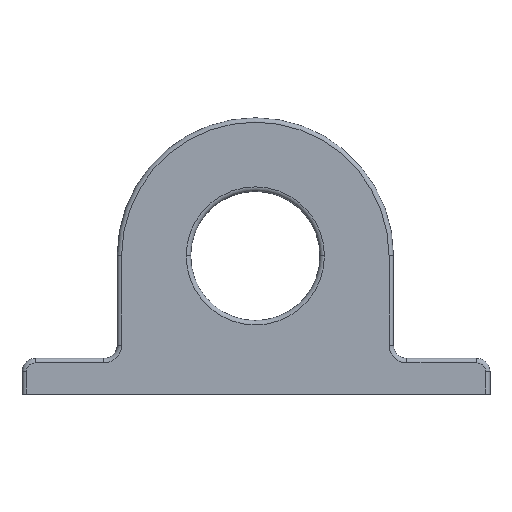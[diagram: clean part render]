
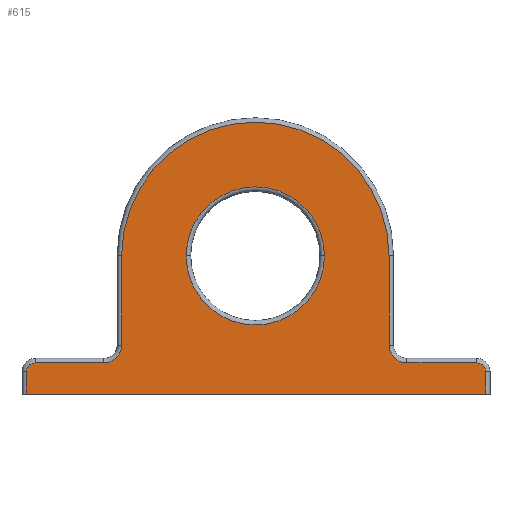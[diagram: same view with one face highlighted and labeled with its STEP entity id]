
A CAD part, top view. The second image highlights one B-rep face of the part: STEP entity #615.
In plain terms, the highlighted planar face has unit normal (0, 0, 1).
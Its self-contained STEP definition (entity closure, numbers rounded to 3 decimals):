
#28 = DIRECTION ( 'NONE',  ( -1., 0., 0. ) ) ;
#31 = EDGE_CURVE ( 'NONE', #1052, #1790, #1112, .T. ) ;
#144 = CARTESIAN_POINT ( 'NONE',  ( 49.5, 7., 11.5 ) ) ;
#153 = CARTESIAN_POINT ( 'NONE',  ( -51.5, 5., 11.5 ) ) ;
#154 = EDGE_CURVE ( 'NONE', #404, #539, #1774, .T. ) ;
#190 = CARTESIAN_POINT ( 'NONE',  ( -51.5, 0., 11.5 ) ) ;
#195 = VERTEX_POINT ( 'NONE', #144 ) ;
#202 = EDGE_CURVE ( 'NONE', #1790, #1179, #1278, .T. ) ;
#206 = CARTESIAN_POINT ( 'NONE',  ( 51.5, 5., 11.5 ) ) ;
#211 = CARTESIAN_POINT ( 'NONE',  ( -51.5, 8., 11.5 ) ) ;
#227 = EDGE_CURVE ( 'NONE', #1507, #1215, #886, .T. ) ;
#240 = FACE_BOUND ( 'NONE', #1580, .T. ) ;
#250 = EDGE_CURVE ( 'NONE', #195, #1786, #313, .T. ) ;
#263 = CIRCLE ( 'NONE', #961, 30. ) ;
#313 = LINE ( 'NONE', #1650, #1796 ) ;
#322 = VECTOR ( 'NONE', #490, 1000. ) ;
#339 = AXIS2_PLACEMENT_3D ( 'NONE', #1846, #345, #1550 ) ;
#345 = DIRECTION ( 'NONE',  ( 0., 0., -1. ) ) ;
#346 = CARTESIAN_POINT ( 'NONE',  ( 49.5, 5., 11.5 ) ) ;
#347 = LINE ( 'NONE', #717, #781 ) ;
#376 = LINE ( 'NONE', #1759, #1036 ) ;
#382 = PLANE ( 'NONE',  #614 ) ;
#397 = CIRCLE ( 'NONE', #1561, 15.5 ) ;
#404 = VERTEX_POINT ( 'NONE', #1830 ) ;
#413 = CARTESIAN_POINT ( 'NONE',  ( -49.5, 7., 11.5 ) ) ;
#433 = DIRECTION ( 'NONE',  ( 0., 0., 1. ) ) ;
#449 = EDGE_CURVE ( 'NONE', #1528, #1052, #263, .T. ) ;
#469 = DIRECTION ( 'NONE',  ( -1., 0., 0. ) ) ;
#480 = VECTOR ( 'NONE', #1837, 1000. ) ;
#490 = DIRECTION ( 'NONE',  ( -1., 0., 0. ) ) ;
#513 = ORIENTED_EDGE ( 'NONE', *, *, #227, .T. ) ;
#514 = DIRECTION ( 'NONE',  ( 0., 0., 1. ) ) ;
#521 = AXIS2_PLACEMENT_3D ( 'NONE', #346, #1529, #469 ) ;
#539 = VERTEX_POINT ( 'NONE', #1723 ) ;
#554 = VERTEX_POINT ( 'NONE', #1732 ) ;
#560 = ORIENTED_EDGE ( 'NONE', *, *, #1655, .T. ) ;
#586 = CIRCLE ( 'NONE', #521, 2. ) ;
#594 = ORIENTED_EDGE ( 'NONE', *, *, #1437, .T. ) ;
#614 = AXIS2_PLACEMENT_3D ( 'NONE', #817, #1290, #966 ) ;
#615 = ADVANCED_FACE ( 'NONE', ( #240, #1688 ), #382, .F. ) ;
#647 = DIRECTION ( 'NONE',  ( -1., 0., 0. ) ) ;
#695 = ORIENTED_EDGE ( 'NONE', *, *, #819, .T. ) ;
#717 = CARTESIAN_POINT ( 'NONE',  ( 29.843, 8., 11.5 ) ) ;
#750 = ORIENTED_EDGE ( 'NONE', *, *, #154, .T. ) ;
#751 = DIRECTION ( 'NONE',  ( -1., 0., 0. ) ) ;
#760 = LINE ( 'NONE', #803, #322 ) ;
#781 = VECTOR ( 'NONE', #1481, 1000. ) ;
#803 = CARTESIAN_POINT ( 'NONE',  ( -49.5, 7., 11.5 ) ) ;
#817 = CARTESIAN_POINT ( 'NONE',  ( -52.5, 8., 11.5 ) ) ;
#819 = EDGE_CURVE ( 'NONE', #1179, #1507, #760, .T. ) ;
#840 = ORIENTED_EDGE ( 'NONE', *, *, #250, .T. ) ;
#854 = CARTESIAN_POINT ( 'NONE',  ( -30.157, 31., 11.5 ) ) ;
#862 = VERTEX_POINT ( 'NONE', #1238 ) ;
#873 = EDGE_CURVE ( 'NONE', #1786, #862, #1063, .T. ) ;
#886 = CIRCLE ( 'NONE', #1283, 2. ) ;
#903 = ORIENTED_EDGE ( 'NONE', *, *, #873, .T. ) ;
#951 = CARTESIAN_POINT ( 'NONE',  ( 33.843, 11., 11.5 ) ) ;
#961 = AXIS2_PLACEMENT_3D ( 'NONE', #1405, #514, #647 ) ;
#966 = DIRECTION ( 'NONE',  ( -1., 0., 0. ) ) ;
#973 = ORIENTED_EDGE ( 'NONE', *, *, #31, .T. ) ;
#1005 = DIRECTION ( 'NONE',  ( 0., 1., 0. ) ) ;
#1035 = DIRECTION ( 'NONE',  ( 0., 0., -1. ) ) ;
#1036 = VECTOR ( 'NONE', #1005, 1000. ) ;
#1040 = CARTESIAN_POINT ( 'NONE',  ( -34.157, 11., 11.5 ) ) ;
#1052 = VERTEX_POINT ( 'NONE', #854 ) ;
#1053 = CARTESIAN_POINT ( 'NONE',  ( -52.5, 0., 11.5 ) ) ;
#1062 = CARTESIAN_POINT ( 'NONE',  ( -30.157, 11., 11.5 ) ) ;
#1063 = CIRCLE ( 'NONE', #1813, 4. ) ;
#1077 = ORIENTED_EDGE ( 'NONE', *, *, #1878, .T. ) ;
#1078 = VECTOR ( 'NONE', #1423, 1000. ) ;
#1080 = EDGE_CURVE ( 'NONE', #554, #1947, #376, .T. ) ;
#1112 = LINE ( 'NONE', #1273, #1078 ) ;
#1123 = ORIENTED_EDGE ( 'NONE', *, *, #449, .T. ) ;
#1126 = EDGE_CURVE ( 'NONE', #862, #1528, #347, .T. ) ;
#1137 = VECTOR ( 'NONE', #1682, 1000. ) ;
#1162 = LINE ( 'NONE', #211, #1137 ) ;
#1179 = VERTEX_POINT ( 'NONE', #1936 ) ;
#1189 = DIRECTION ( 'NONE',  ( -1., 0., 0. ) ) ;
#1215 = VERTEX_POINT ( 'NONE', #153 ) ;
#1228 = CARTESIAN_POINT ( 'NONE',  ( 33.843, 7., 11.5 ) ) ;
#1238 = CARTESIAN_POINT ( 'NONE',  ( 29.843, 11., 11.5 ) ) ;
#1273 = CARTESIAN_POINT ( 'NONE',  ( -30.157, 8., 11.5 ) ) ;
#1278 = CIRCLE ( 'NONE', #1856, 4. ) ;
#1283 = AXIS2_PLACEMENT_3D ( 'NONE', #1503, #433, #28 ) ;
#1290 = DIRECTION ( 'NONE',  ( 0., 0., -1. ) ) ;
#1323 = DIRECTION ( 'NONE',  ( -1., 0., 0. ) ) ;
#1401 = DIRECTION ( 'NONE',  ( 0., 0., -1. ) ) ;
#1405 = CARTESIAN_POINT ( 'NONE',  ( -0.157, 31., 11.5 ) ) ;
#1423 = DIRECTION ( 'NONE',  ( 0., -1., 0. ) ) ;
#1436 = VERTEX_POINT ( 'NONE', #190 ) ;
#1437 = EDGE_CURVE ( 'NONE', #1947, #195, #586, .T. ) ;
#1446 = LINE ( 'NONE', #1053, #480 ) ;
#1462 = EDGE_CURVE ( 'NONE', #1436, #554, #1446, .T. ) ;
#1481 = DIRECTION ( 'NONE',  ( 0., 1., 0. ) ) ;
#1497 = DIRECTION ( 'NONE',  ( 0., 0., -1. ) ) ;
#1503 = CARTESIAN_POINT ( 'NONE',  ( -49.5, 5., 11.5 ) ) ;
#1507 = VERTEX_POINT ( 'NONE', #413 ) ;
#1528 = VERTEX_POINT ( 'NONE', #1735 ) ;
#1529 = DIRECTION ( 'NONE',  ( 0., 0., 1. ) ) ;
#1550 = DIRECTION ( 'NONE',  ( -1., 0., 0. ) ) ;
#1560 = DIRECTION ( 'NONE',  ( -1., 0., 0. ) ) ;
#1561 = AXIS2_PLACEMENT_3D ( 'NONE', #1931, #1497, #1323 ) ;
#1580 = EDGE_LOOP ( 'NONE', ( #560, #750 ) ) ;
#1650 = CARTESIAN_POINT ( 'NONE',  ( 33.843, 7., 11.5 ) ) ;
#1655 = EDGE_CURVE ( 'NONE', #539, #404, #397, .T. ) ;
#1665 = ORIENTED_EDGE ( 'NONE', *, *, #1462, .T. ) ;
#1682 = DIRECTION ( 'NONE',  ( 0., -1., 0. ) ) ;
#1686 = ORIENTED_EDGE ( 'NONE', *, *, #202, .T. ) ;
#1688 = FACE_OUTER_BOUND ( 'NONE', #1760, .T. ) ;
#1723 = CARTESIAN_POINT ( 'NONE',  ( -15.657, 31., 11.5 ) ) ;
#1732 = CARTESIAN_POINT ( 'NONE',  ( 51.5, 0., 11.5 ) ) ;
#1735 = CARTESIAN_POINT ( 'NONE',  ( 29.843, 31., 11.5 ) ) ;
#1738 = ORIENTED_EDGE ( 'NONE', *, *, #1080, .T. ) ;
#1759 = CARTESIAN_POINT ( 'NONE',  ( 51.5, 8., 11.5 ) ) ;
#1760 = EDGE_LOOP ( 'NONE', ( #513, #1077, #1665, #1738, #594, #840, #903, #1815, #1123, #973, #1686, #695 ) ) ;
#1774 = CIRCLE ( 'NONE', #339, 15.5 ) ;
#1786 = VERTEX_POINT ( 'NONE', #1228 ) ;
#1790 = VERTEX_POINT ( 'NONE', #1062 ) ;
#1796 = VECTOR ( 'NONE', #751, 1000. ) ;
#1813 = AXIS2_PLACEMENT_3D ( 'NONE', #951, #1401, #1560 ) ;
#1815 = ORIENTED_EDGE ( 'NONE', *, *, #1126, .T. ) ;
#1830 = CARTESIAN_POINT ( 'NONE',  ( 15.343, 31., 11.5 ) ) ;
#1837 = DIRECTION ( 'NONE',  ( 1., 0., 0. ) ) ;
#1846 = CARTESIAN_POINT ( 'NONE',  ( -0.157, 31., 11.5 ) ) ;
#1856 = AXIS2_PLACEMENT_3D ( 'NONE', #1040, #1035, #1189 ) ;
#1878 = EDGE_CURVE ( 'NONE', #1215, #1436, #1162, .T. ) ;
#1931 = CARTESIAN_POINT ( 'NONE',  ( -0.157, 31., 11.5 ) ) ;
#1936 = CARTESIAN_POINT ( 'NONE',  ( -34.157, 7., 11.5 ) ) ;
#1947 = VERTEX_POINT ( 'NONE', #206 ) ;
